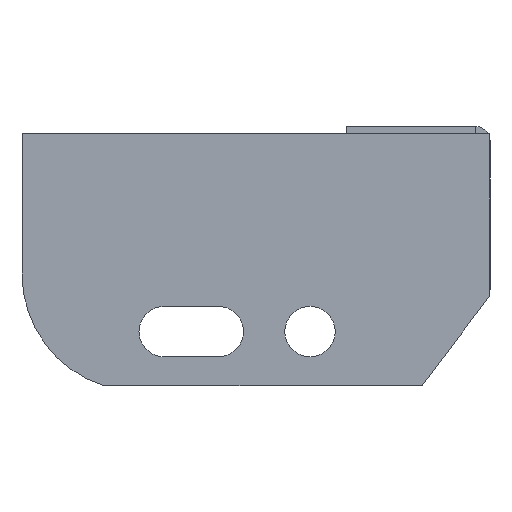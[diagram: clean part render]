
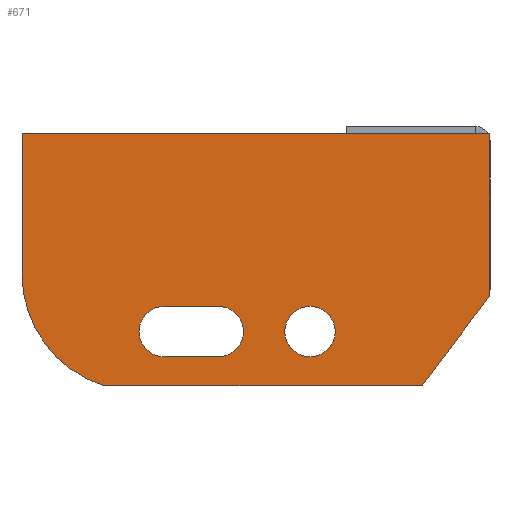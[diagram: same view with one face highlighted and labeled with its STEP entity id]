
A CAD part, left-side view. The second image highlights one B-rep face of the part: STEP entity #671.
In plain terms, the highlighted planar face has unit normal (-1, 0, 0) as drawn and (0, 0, 1) by its records, which use the part's own axes.
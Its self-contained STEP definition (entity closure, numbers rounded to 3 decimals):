
#5 = AXIS2_PLACEMENT_3D ( 'NONE', #931, #2007, #322 ) ;
#10 = ORIENTED_EDGE ( 'NONE', *, *, #263, .T. ) ;
#33 = LINE ( 'NONE', #1440, #266 ) ;
#50 = AXIS2_PLACEMENT_3D ( 'NONE', #917, #1106, #1568 ) ;
#55 = EDGE_LOOP ( 'NONE', ( #420, #255 ) ) ;
#62 = AXIS2_PLACEMENT_3D ( 'NONE', #1631, #1445, #1603 ) ;
#67 = EDGE_CURVE ( 'NONE', #1790, #1097, #1545, .T. ) ;
#85 = VERTEX_POINT ( 'NONE', #161 ) ;
#112 = DIRECTION ( 'NONE',  ( 0., 0., 1. ) ) ;
#161 = CARTESIAN_POINT ( 'NONE',  ( 0., -45., 3. ) ) ;
#164 = VERTEX_POINT ( 'NONE', #171 ) ;
#171 = CARTESIAN_POINT ( 'NONE',  ( -97.5, -55., 3. ) ) ;
#209 = ORIENTED_EDGE ( 'NONE', *, *, #975, .F. ) ;
#213 = CARTESIAN_POINT ( 'NONE',  ( -18.839, -70., 3. ) ) ;
#225 = ORIENTED_EDGE ( 'NONE', *, *, #988, .F. ) ;
#233 = VERTEX_POINT ( 'NONE', #541 ) ;
#244 = CARTESIAN_POINT ( 'NONE',  ( -75.5, -48., 3. ) ) ;
#255 = ORIENTED_EDGE ( 'NONE', *, *, #665, .F. ) ;
#263 = EDGE_CURVE ( 'NONE', #1795, #1790, #33, .T. ) ;
#266 = VECTOR ( 'NONE', #1152, 1000. ) ;
#270 = VECTOR ( 'NONE', #1322, 1000. ) ;
#322 = DIRECTION ( 'NONE',  ( 1., 0., 0. ) ) ;
#338 = VECTOR ( 'NONE', #1424, 1000. ) ;
#342 = CARTESIAN_POINT ( 'NONE',  ( -18.839, -70., 3. ) ) ;
#400 = EDGE_LOOP ( 'NONE', ( #225, #1359, #990, #209, #1107 ) ) ;
#403 = CARTESIAN_POINT ( 'NONE',  ( 0., 0., 3. ) ) ;
#420 = ORIENTED_EDGE ( 'NONE', *, *, #807, .F. ) ;
#426 = CARTESIAN_POINT ( 'NONE',  ( -130., 0., 3. ) ) ;
#448 = CARTESIAN_POINT ( 'NONE',  ( -75.5, -62., 3. ) ) ;
#461 = CARTESIAN_POINT ( 'NONE',  ( -97.5, -39., 3. ) ) ;
#467 = ORIENTED_EDGE ( 'NONE', *, *, #1282, .T. ) ;
#470 = AXIS2_PLACEMENT_3D ( 'NONE', #650, #631, #944 ) ;
#473 = FACE_BOUND ( 'NONE', #400, .T. ) ;
#478 = VERTEX_POINT ( 'NONE', #1820 ) ;
#504 = DIRECTION ( 'NONE',  ( 0., -1., 0. ) ) ;
#541 = CARTESIAN_POINT ( 'NONE',  ( -43., -55., 3. ) ) ;
#546 = ORIENTED_EDGE ( 'NONE', *, *, #878, .T. ) ;
#564 = EDGE_CURVE ( 'NONE', #1675, #85, #905, .T. ) ;
#594 = VERTEX_POINT ( 'NONE', #448 ) ;
#622 = PLANE ( 'NONE',  #5 ) ;
#631 = DIRECTION ( 'NONE',  ( 0., 0., 1. ) ) ;
#641 = FACE_BOUND ( 'NONE', #55, .T. ) ;
#650 = CARTESIAN_POINT ( 'NONE',  ( -50., -55., 3. ) ) ;
#665 = EDGE_CURVE ( 'NONE', #233, #1252, #1410, .T. ) ;
#671 = ADVANCED_FACE ( 'NONE', ( #2019, #641, #473 ), #622, .T. ) ;
#676 = CIRCLE ( 'NONE', #1819, 32.5 ) ;
#805 = LINE ( 'NONE', #342, #338 ) ;
#807 = EDGE_CURVE ( 'NONE', #1252, #233, #1312, .T. ) ;
#809 = DIRECTION ( 'NONE',  ( 0.602, 0.799, 0. ) ) ;
#849 = CIRCLE ( 'NONE', #50, 7. ) ;
#865 = LINE ( 'NONE', #1953, #270 ) ;
#878 = EDGE_CURVE ( 'NONE', #85, #1795, #1125, .T. ) ;
#905 = LINE ( 'NONE', #1955, #1250 ) ;
#917 = CARTESIAN_POINT ( 'NONE',  ( -75.5, -55., 3. ) ) ;
#920 = DIRECTION ( 'NONE',  ( 0., 0., 1. ) ) ;
#931 = CARTESIAN_POINT ( 'NONE',  ( -97.5, -39., 3. ) ) ;
#944 = DIRECTION ( 'NONE',  ( 1., 0., 0. ) ) ;
#975 = EDGE_CURVE ( 'NONE', #1688, #1924, #865, .T. ) ;
#984 = CIRCLE ( 'NONE', #1347, 7. ) ;
#988 = EDGE_CURVE ( 'NONE', #478, #594, #1826, .T. ) ;
#990 = ORIENTED_EDGE ( 'NONE', *, *, #1835, .F. ) ;
#1005 = DIRECTION ( 'NONE',  ( 0., 0., 1. ) ) ;
#1067 = DIRECTION ( 'NONE',  ( 1., 0., 0. ) ) ;
#1076 = CARTESIAN_POINT ( 'NONE',  ( -90.5, -55., 3. ) ) ;
#1089 = CARTESIAN_POINT ( 'NONE',  ( -130., -39., 3. ) ) ;
#1097 = VERTEX_POINT ( 'NONE', #1089 ) ;
#1106 = DIRECTION ( 'NONE',  ( 0., 0., 1. ) ) ;
#1107 = ORIENTED_EDGE ( 'NONE', *, *, #1388, .F. ) ;
#1125 = LINE ( 'NONE', #1311, #1151 ) ;
#1151 = VECTOR ( 'NONE', #1935, 1000. ) ;
#1152 = DIRECTION ( 'NONE',  ( -1., 0., 0. ) ) ;
#1171 = ORIENTED_EDGE ( 'NONE', *, *, #564, .T. ) ;
#1173 = EDGE_CURVE ( 'NONE', #164, #478, #984, .T. ) ;
#1236 = CIRCLE ( 'NONE', #1921, 7. ) ;
#1250 = VECTOR ( 'NONE', #809, 1000. ) ;
#1252 = VERTEX_POINT ( 'NONE', #2014 ) ;
#1282 = EDGE_CURVE ( 'NONE', #1366, #1675, #805, .T. ) ;
#1311 = CARTESIAN_POINT ( 'NONE',  ( 0., 0., 3. ) ) ;
#1312 = CIRCLE ( 'NONE', #62, 7. ) ;
#1321 = EDGE_LOOP ( 'NONE', ( #546, #10, #1329, #1754, #467, #1171 ) ) ;
#1322 = DIRECTION ( 'NONE',  ( -1., 0., 0. ) ) ;
#1329 = ORIENTED_EDGE ( 'NONE', *, *, #67, .T. ) ;
#1343 = VECTOR ( 'NONE', #504, 1000. ) ;
#1346 = CARTESIAN_POINT ( 'NONE',  ( -90.5, -55., 3. ) ) ;
#1347 = AXIS2_PLACEMENT_3D ( 'NONE', #1076, #920, #1882 ) ;
#1359 = ORIENTED_EDGE ( 'NONE', *, *, #1173, .F. ) ;
#1366 = VERTEX_POINT ( 'NONE', #1533 ) ;
#1388 = EDGE_CURVE ( 'NONE', #594, #1688, #849, .T. ) ;
#1410 = CIRCLE ( 'NONE', #470, 7. ) ;
#1412 = VECTOR ( 'NONE', #1943, 1000. ) ;
#1424 = DIRECTION ( 'NONE',  ( 1., 0., 0. ) ) ;
#1440 = CARTESIAN_POINT ( 'NONE',  ( 0., 0., 3. ) ) ;
#1445 = DIRECTION ( 'NONE',  ( 0., 0., 1. ) ) ;
#1533 = CARTESIAN_POINT ( 'NONE',  ( -107.26, -70., 3. ) ) ;
#1545 = LINE ( 'NONE', #1868, #1343 ) ;
#1568 = DIRECTION ( 'NONE',  ( 1., 0., 0. ) ) ;
#1603 = DIRECTION ( 'NONE',  ( 1., 0., 0. ) ) ;
#1631 = CARTESIAN_POINT ( 'NONE',  ( -50., -55., 3. ) ) ;
#1633 = DIRECTION ( 'NONE',  ( 1., 0., 0. ) ) ;
#1675 = VERTEX_POINT ( 'NONE', #213 ) ;
#1688 = VERTEX_POINT ( 'NONE', #244 ) ;
#1754 = ORIENTED_EDGE ( 'NONE', *, *, #1938, .T. ) ;
#1790 = VERTEX_POINT ( 'NONE', #426 ) ;
#1795 = VERTEX_POINT ( 'NONE', #403 ) ;
#1819 = AXIS2_PLACEMENT_3D ( 'NONE', #461, #112, #1067 ) ;
#1820 = CARTESIAN_POINT ( 'NONE',  ( -90.5, -62., 3. ) ) ;
#1826 = LINE ( 'NONE', #1964, #1412 ) ;
#1835 = EDGE_CURVE ( 'NONE', #1924, #164, #1236, .T. ) ;
#1855 = CARTESIAN_POINT ( 'NONE',  ( -90.5, -48., 3. ) ) ;
#1868 = CARTESIAN_POINT ( 'NONE',  ( -130., 0., 3. ) ) ;
#1882 = DIRECTION ( 'NONE',  ( 1., 0., 0. ) ) ;
#1921 = AXIS2_PLACEMENT_3D ( 'NONE', #1346, #1005, #1633 ) ;
#1924 = VERTEX_POINT ( 'NONE', #1855 ) ;
#1935 = DIRECTION ( 'NONE',  ( 0., 1., 0. ) ) ;
#1938 = EDGE_CURVE ( 'NONE', #1097, #1366, #676, .T. ) ;
#1943 = DIRECTION ( 'NONE',  ( 1., 0., 0. ) ) ;
#1953 = CARTESIAN_POINT ( 'NONE',  ( -90.5, -48., 3. ) ) ;
#1955 = CARTESIAN_POINT ( 'NONE',  ( 0., -45., 3. ) ) ;
#1964 = CARTESIAN_POINT ( 'NONE',  ( -90.5, -62., 3. ) ) ;
#2007 = DIRECTION ( 'NONE',  ( 0., 0., 1. ) ) ;
#2014 = CARTESIAN_POINT ( 'NONE',  ( -57., -55., 3. ) ) ;
#2019 = FACE_OUTER_BOUND ( 'NONE', #1321, .T. ) ;
